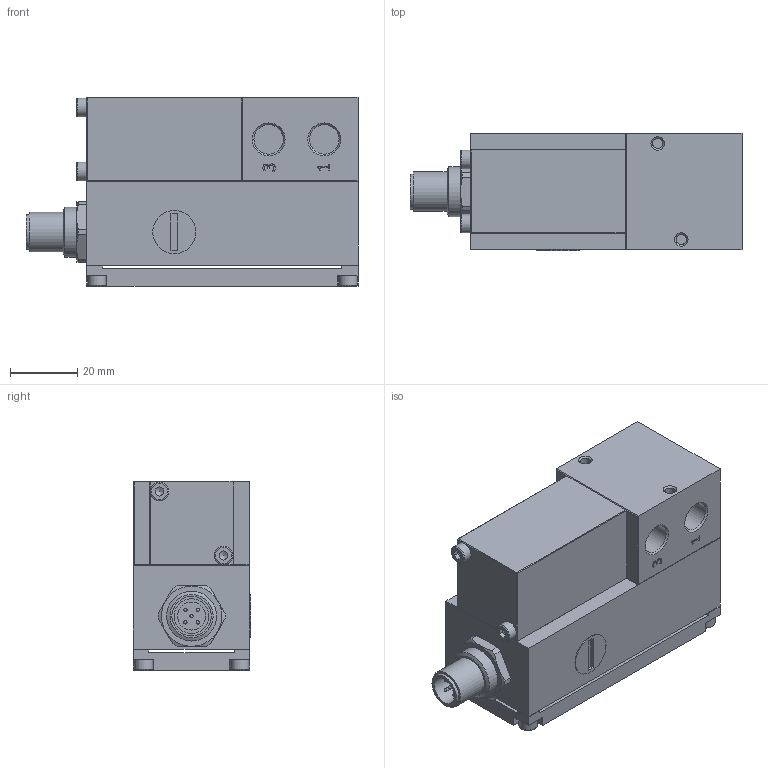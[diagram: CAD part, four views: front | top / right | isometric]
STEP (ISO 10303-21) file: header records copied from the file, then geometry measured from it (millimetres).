
FILE_DESCRIPTION((''),'2;1');
FILE_NAME('U:\AirCom-Produktdokumentation\Proportionaldruckregler\PP\Zeichnungen\CAD-Aircom\3D\B-PPA.stp','2013-12-02T13:45:29',('Frank Schroers'),(''),'Autodesk Inventor 2008','Autodesk Inventor 2008','');
FILE_SCHEMA(('AUTOMOTIVE_DESIGN { 1 0 10303 214 1 1 1 1 }'));
Length unit declared in the file: millimetre
Products named in the file (4): B-PPA; DIN 912 - ersetzt durch DIN EN ISO 4762 M3 x 6; DIN 912 - ersetzt durch DIN EN ISO 4762 M3 x 5
Assembly tree (7 placements, depth 2):
  B-PPA
    B-PPA
    DIN 912 - ersetzt durch DIN EN ISO 4762 M3 x 6
    DIN 912 - ersetzt durch DIN EN ISO 4762 M3 x 5  x5
Bounding box: 98.5 x 34.75 x 56.2 mm (x, y, z)
Volume: 589.6 mm3; surface area: 28493.8 mm2
Topology: 6 solids, 7 shells, 388 faces, 955 edges, 606 vertices
Faces by surface type: plane 256, bspline 51, cylinder 48, cone 22, torus 6, sphere 5
Full cylindrical faces by diameter (mm): 1 x5, 2 x2, 3 x11, 3.5 x2, 5.5 x6, 8.3 x1, 8.75 x3, 10.3 x1, 11.7 x1, 12.8 x1, 14 x1, 14.1 x1, 14.8 x1
Entity records: 9974 total; most frequent: CARTESIAN_POINT 2341, ORIENTED_EDGE 1532, DIRECTION 1347, EDGE_CURVE 766, VECTOR 557, LINE 557, VERTEX_POINT 523, EDGE_LOOP 423
